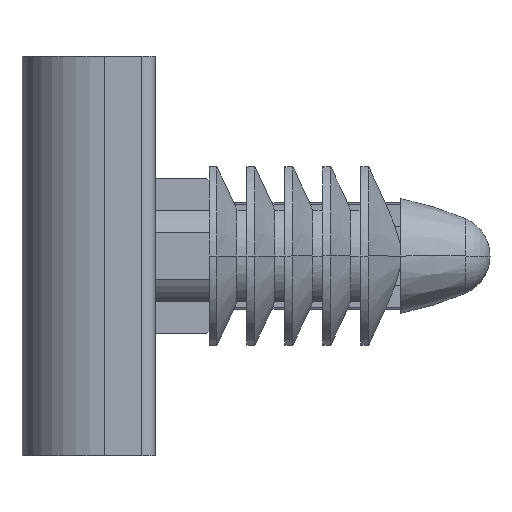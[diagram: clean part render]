
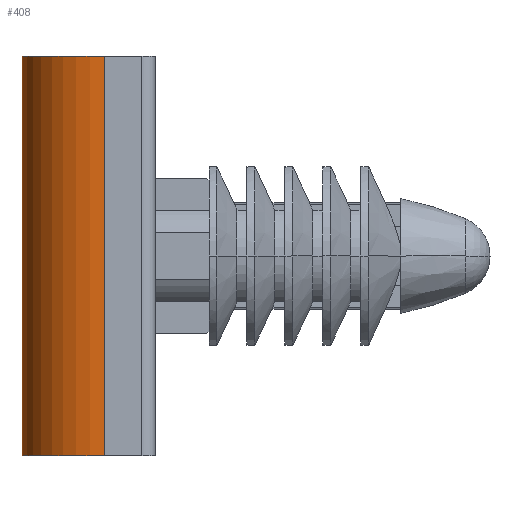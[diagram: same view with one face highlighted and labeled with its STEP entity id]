
A CAD part, left-side view. The second image highlights one B-rep face of the part: STEP entity #408.
In plain terms, the highlighted cylindrical face has radius 3.1 mm (diameter 6.2 mm), a partial arc.
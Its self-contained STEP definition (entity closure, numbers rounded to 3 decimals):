
#372=AXIS2_PLACEMENT_3D('Cylinder Axis2P3D',#369,#370,#371) ;
#376=AXIS2_PLACEMENT_3D('Circle Axis2P3D',#374,#375,$) ;
#392=AXIS2_PLACEMENT_3D('Circle Axis2P3D',#390,#391,$) ;
#369=CARTESIAN_POINT('Axis2P3D Location',(-9.8,-3.1,0.)) ;
#374=CARTESIAN_POINT('Axis2P3D Location',(-9.8,-3.1,-7.5)) ;
#378=CARTESIAN_POINT('Vertex',(-9.8,0.,-7.5)) ;
#380=CARTESIAN_POINT('Vertex',(-12.9,-3.1,-7.5)) ;
#383=CARTESIAN_POINT('Line Origine',(-12.9,-3.1,0.)) ;
#387=CARTESIAN_POINT('Vertex',(-12.9,-3.1,7.5)) ;
#390=CARTESIAN_POINT('Axis2P3D Location',(-9.8,-3.1,7.5)) ;
#394=CARTESIAN_POINT('Vertex',(-9.8,0.,7.5)) ;
#397=CARTESIAN_POINT('Line Origine',(-9.8,0.,0.)) ;
#370=DIRECTION('Axis2P3D Direction',(0.,0.,1.)) ;
#371=DIRECTION('Axis2P3D XDirection',(1.,0.,0.)) ;
#375=DIRECTION('Axis2P3D Direction',(0.,0.,1.)) ;
#384=DIRECTION('Vector Direction',(0.,0.,1.)) ;
#391=DIRECTION('Axis2P3D Direction',(0.,0.,1.)) ;
#398=DIRECTION('Vector Direction',(0.,0.,1.)) ;
#385=VECTOR('Line Direction',#384,1.) ;
#399=VECTOR('Line Direction',#398,1.) ;
#403=ORIENTED_EDGE('',*,*,#382,.T.) ;
#404=ORIENTED_EDGE('',*,*,#389,.F.) ;
#405=ORIENTED_EDGE('',*,*,#396,.F.) ;
#406=ORIENTED_EDGE('',*,*,#401,.T.) ;
#408=ADVANCED_FACE('\X2\51E04F554F53\X0\.3',(#407),#373,.T.) ;
#377=CIRCLE('generated circle',#376,3.1) ;
#393=CIRCLE('generated circle',#392,3.1) ;
#373=CYLINDRICAL_SURFACE('generated cylinder',#372,3.1) ;
#382=EDGE_CURVE('',#379,#381,#377,.T.) ;
#389=EDGE_CURVE('',#388,#381,#386,.F.) ;
#396=EDGE_CURVE('',#395,#388,#393,.T.) ;
#401=EDGE_CURVE('',#395,#379,#400,.F.) ;
#402=EDGE_LOOP('',(#403,#404,#405,#406)) ;
#407=FACE_OUTER_BOUND('',#402,.T.) ;
#386=LINE('Line',#383,#385) ;
#400=LINE('Line',#397,#399) ;
#379=VERTEX_POINT('',#378) ;
#381=VERTEX_POINT('',#380) ;
#388=VERTEX_POINT('',#387) ;
#395=VERTEX_POINT('',#394) ;
